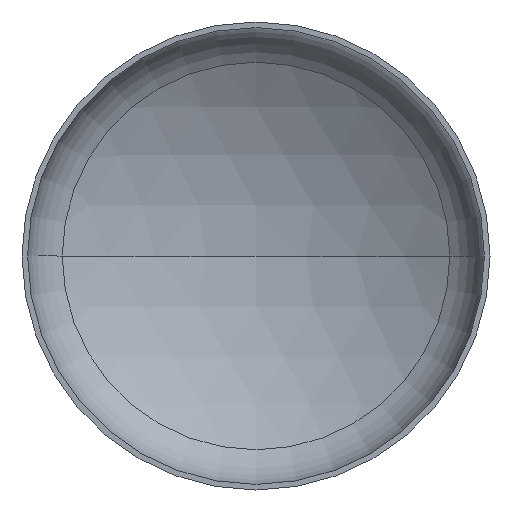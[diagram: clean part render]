
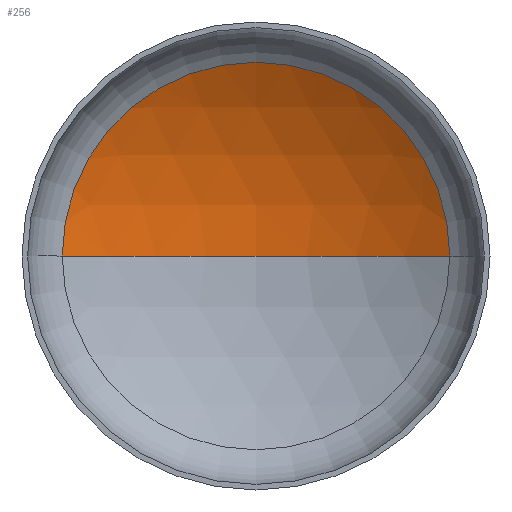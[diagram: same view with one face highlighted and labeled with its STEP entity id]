
A CAD part, front view. The second image highlights one B-rep face of the part: STEP entity #256.
In plain terms, the highlighted spherical face has radius 2400 mm.
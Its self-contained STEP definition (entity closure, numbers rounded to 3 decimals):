
#16 = EDGE_LOOP ( 'NONE', ( #23, #123, #95 ) ) ;
#23 = ORIENTED_EDGE ( 'NONE', *, *, #377, .F. ) ;
#27 = AXIS2_PLACEMENT_3D ( 'NONE', #223, #170, #308 ) ;
#30 = AXIS2_PLACEMENT_3D ( 'NONE', #162, #157, #159 ) ;
#31 = VERTEX_POINT ( 'NONE', #279 ) ;
#47 = AXIS2_PLACEMENT_3D ( 'NONE', #209, #200, #250 ) ;
#91 = VERTEX_POINT ( 'NONE', #239 ) ;
#95 = ORIENTED_EDGE ( 'NONE', *, *, #334, .T. ) ;
#97 = VERTEX_POINT ( 'NONE', #332 ) ;
#123 = ORIENTED_EDGE ( 'NONE', *, *, #340, .T. ) ;
#157 = DIRECTION ( 'NONE',  ( 0., -1., 0. ) ) ;
#159 = DIRECTION ( 'NONE',  ( 1., 0., 0. ) ) ;
#162 = CARTESIAN_POINT ( 'NONE',  ( 0., 503.607, 0. ) ) ;
#170 = DIRECTION ( 'NONE',  ( 0., 0., -1. ) ) ;
#192 = DIRECTION ( 'NONE',  ( 1., 0., 0. ) ) ;
#200 = DIRECTION ( 'NONE',  ( 0., 0., -1. ) ) ;
#209 = CARTESIAN_POINT ( 'NONE',  ( 0., -1549.995, 0. ) ) ;
#218 = CIRCLE ( 'NONE', #27, 2400. ) ;
#223 = CARTESIAN_POINT ( 'NONE',  ( 0., -1549.995, 0. ) ) ;
#238 = FACE_OUTER_BOUND ( 'NONE', #16, .T. ) ;
#239 = CARTESIAN_POINT ( 'NONE',  ( 1242.062, 503.607, 0. ) ) ;
#250 = DIRECTION ( 'NONE',  ( -1., 0., 0. ) ) ;
#256 = ADVANCED_FACE ( 'NONE', ( #238 ), #311, .F. ) ;
#279 = CARTESIAN_POINT ( 'NONE',  ( 0., 850.005, 0. ) ) ;
#286 = CIRCLE ( 'NONE', #30, 1242.062 ) ;
#298 = AXIS2_PLACEMENT_3D ( 'NONE', #347, #349, #192 ) ;
#308 = DIRECTION ( 'NONE',  ( -1., 0., 0. ) ) ;
#311 = SPHERICAL_SURFACE ( 'NONE', #47, 2400. ) ;
#332 = CARTESIAN_POINT ( 'NONE',  ( -1242.062, 503.607, 0. ) ) ;
#333 = CIRCLE ( 'NONE', #298, 2400. ) ;
#334 = EDGE_CURVE ( 'NONE', #91, #97, #286, .T. ) ;
#340 = EDGE_CURVE ( 'NONE', #31, #91, #218, .T. ) ;
#347 = CARTESIAN_POINT ( 'NONE',  ( 0., -1549.995, 0. ) ) ;
#349 = DIRECTION ( 'NONE',  ( 0., 0., 1. ) ) ;
#377 = EDGE_CURVE ( 'NONE', #31, #97, #333, .T. ) ;
